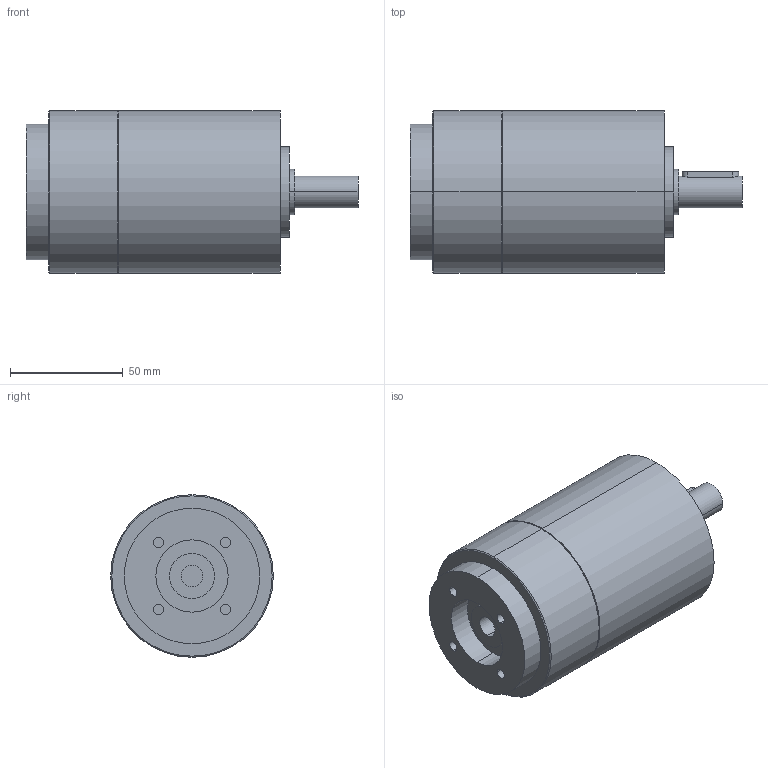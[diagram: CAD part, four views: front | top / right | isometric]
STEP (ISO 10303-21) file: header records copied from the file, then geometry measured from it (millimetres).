
FILE_DESCRIPTION(('CoCreate Modeling STEP Export'),'2;1');
FILE_NAME('GPT75_ig-9-12-16-20-25-28-35-40-50-70-100_14_B14T_9.52_P11.stp','2014-08-27T13:24:49',(''),(''),'CoCreate Modeling STEP processor for AP214 (Solid Model)','CoCreate Modeling 16.00C 25-Feb-2009 (C) Parametric Technology GmbH','');
FILE_SCHEMA(('AUTOMOTIVE_DESIGN { 1 0 10303 214 1 1 1 1 }'));
Length unit declared in the file: millimetre
Products named in the file (2): GPT75_ig-9-12-16-20-25-28-35-40-50-70-100_14_B14T_9.52_P11
Assembly tree (1 placements, depth 2):
  GPT75_ig-9-12-16-20-25-28-35-40-50-70-100_14_B14T_9.52_P11
    GPT75_ig-9-12-16-20-25-28-35-40-50-70-100_14_B14T_9.52_P11
Bounding box: 147 x 72 x 72 mm (x, y, z)
Volume: 445048.2 mm3; surface area: 38891.1 mm2
Topology: 1 solids, 1 shells, 64 faces, 142 edges, 97 vertices
Faces by surface type: cylinder 38, plane 22, cone 4
Entity records: 1878 total; most frequent: CARTESIAN_POINT 614, ORIENTED_EDGE 284, DIRECTION 210, EDGE_CURVE 142, VERTEX_POINT 97, AXIS2_PLACEMENT_3D 81, EDGE_LOOP 81, FACE_OUTER_BOUND 64
